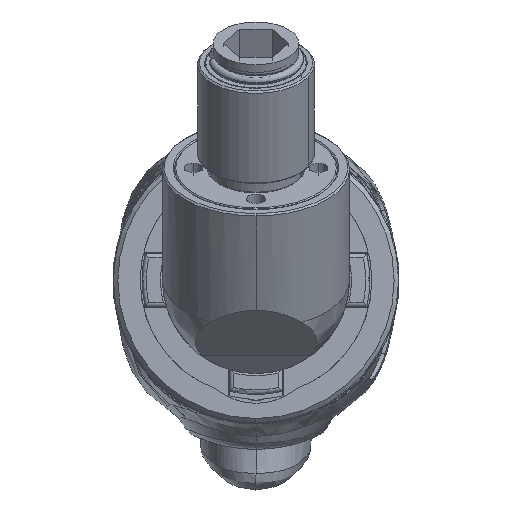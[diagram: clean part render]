
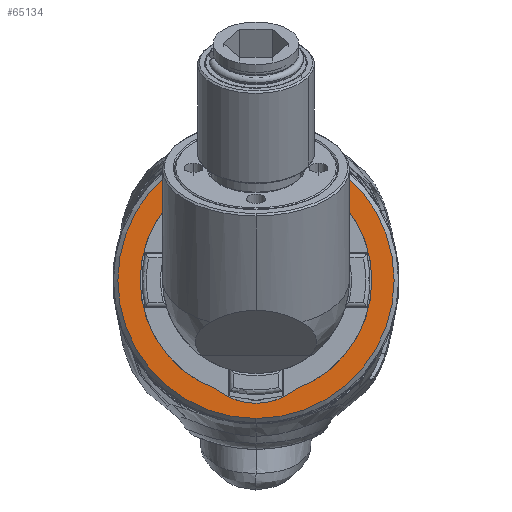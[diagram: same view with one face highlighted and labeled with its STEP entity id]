
A CAD part, top view. The second image highlights one B-rep face of the part: STEP entity #65134.
In plain terms, the highlighted planar face has unit normal (0, 0, 1).
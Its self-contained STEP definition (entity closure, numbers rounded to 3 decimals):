
#15851=CARTESIAN_POINT('',(0.,0.,-8.2));
#15852=DIRECTION('',(0.,0.,1.));
#15853=DIRECTION('',(0.,-1.,0.));
#15854=AXIS2_PLACEMENT_3D('',#15851,#15852,#15853);
#15865=CARTESIAN_POINT('',(0.,-6.8,-8.2));
#15866=DIRECTION('',(0.,0.,1.));
#15867=DIRECTION('',(-0.632,-0.775,0.));
#15868=AXIS2_PLACEMENT_3D('',#15865,#15866,#15867);
#15870=CARTESIAN_POINT('',(0.,0.,-8.2));
#15871=DIRECTION('',(0.,0.,1.));
#15872=DIRECTION('',(0.34,-0.94,0.));
#15873=AXIS2_PLACEMENT_3D('',#15870,#15871,#15872);
#15875=CARTESIAN_POINT('',(0.,0.,-8.2));
#15876=DIRECTION('',(0.,0.,1.));
#15877=DIRECTION('',(0.,1.,0.));
#15878=AXIS2_PLACEMENT_3D('',#15875,#15876,#15877);
#15880=CARTESIAN_POINT('',(0.,0.,-8.2));
#15881=DIRECTION('',(0.,0.,1.));
#15882=DIRECTION('',(0.,1.,0.));
#15883=AXIS2_PLACEMENT_3D('',#15880,#15881,#15882);
#43456=CARTESIAN_POINT('',(0.,13.,-8.2));
#43457=CARTESIAN_POINT('',(-4.426,-12.224,-8.2));
#43458=VERTEX_POINT('',#43456);
#43459=VERTEX_POINT('',#43457);
#43460=CARTESIAN_POINT('',(4.426,-12.224,-8.2));
#43461=VERTEX_POINT('',#43460);
#43463=CARTESIAN_POINT('',(0.,15.5,-8.2));
#43465=VERTEX_POINT('',#43463);
#43467=CARTESIAN_POINT('',(0.,-15.5,-8.2));
#43469=VERTEX_POINT('',#43467);
#65116=CARTESIAN_POINT('',(0.,0.,-8.2));
#65117=DIRECTION('',(0.,0.,-1.));
#65118=DIRECTION('',(0.,1.,0.));
#65119=AXIS2_PLACEMENT_3D('',#65116,#65117,#65118);
#65120=PLANE('',#65119);
#65121=ORIENTED_EDGE('',*,*,#65106,.F.);
#65123=ORIENTED_EDGE('',*,*,#65122,.F.);
#65124=EDGE_LOOP('',(#65121,#65123));
#65125=FACE_OUTER_BOUND('',#65124,.F.);
#65127=ORIENTED_EDGE('',*,*,#65126,.T.);
#65129=ORIENTED_EDGE('',*,*,#65128,.T.);
#65131=ORIENTED_EDGE('',*,*,#65130,.T.);
#65132=EDGE_LOOP('',(#65127,#65129,#65131));
#65133=FACE_BOUND('',#65132,.F.);
#65134=ADVANCED_FACE('',(#65125,#65133),#65120,.F.);
#15855=CIRCLE('',#15854,15.5);
#15869=CIRCLE('',#15868,7.);
#15874=CIRCLE('',#15873,13.);
#15879=CIRCLE('',#15878,13.);
#15884=CIRCLE('',#15883,15.5);
#65106=EDGE_CURVE('',#43469,#43465,#15855,.T.);
#65122=EDGE_CURVE('',#43465,#43469,#15884,.T.);
#65126=EDGE_CURVE('',#43459,#43461,#15869,.T.);
#65128=EDGE_CURVE('',#43461,#43458,#15874,.T.);
#65130=EDGE_CURVE('',#43458,#43459,#15879,.T.);
